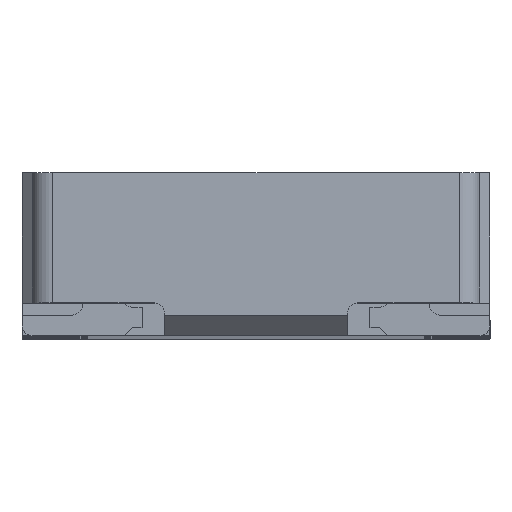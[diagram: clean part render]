
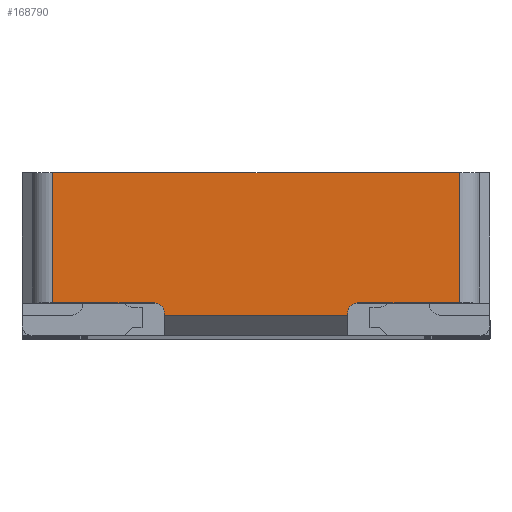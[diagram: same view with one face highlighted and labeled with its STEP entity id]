
A CAD part, top view. The second image highlights one B-rep face of the part: STEP entity #168790.
In plain terms, the highlighted planar face has unit normal (0, 0, 1).
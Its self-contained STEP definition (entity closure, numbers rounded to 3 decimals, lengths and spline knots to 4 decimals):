
#155020=CARTESIAN_POINT('',(21.6638,-1.2553,
4.85));
#155030=VERTEX_POINT('',#155020);
#155060=CARTESIAN_POINT('',(21.6638,-0.9016,
4.85));
#155070=DIRECTION('',(0.,1.,0.));
#155080=VECTOR('',#155070,1.);
#155090=LINE('',#155060,#155080);
#155100=CARTESIAN_POINT('',(21.6638,-1.2453,
4.85));
#155110=VERTEX_POINT('',#155100);
#155120=EDGE_CURVE('',#155030,#155110,#155090,.T.);
#155650=CARTESIAN_POINT('',(22.2138,-1.1953,
4.85));
#155660=VERTEX_POINT('',#155650);
#156350=CARTESIAN_POINT('',(21.7138,-1.1953,
4.85));
#156360=VERTEX_POINT('',#156350);
#156390=CARTESIAN_POINT('',(21.1271,-1.1953,
4.85));
#156400=DIRECTION('',(1.,0.,0.));
#156410=VECTOR('',#156400,1.);
#156420=LINE('',#156390,#156410);
#156430=EDGE_CURVE('',#156360,#155660,#156420,.T.);
#158290=CARTESIAN_POINT('',(21.7138,-1.2453,
4.85));
#158300=DIRECTION('',(0.,0.,1.));
#158310=DIRECTION('',(0.,-1.,0.));
#158320=AXIS2_PLACEMENT_3D('',#158290,#158300,#158310);
#158330=CIRCLE('',#158320,0.05);
#158340=EDGE_CURVE('',#156360,#155110,#158330,.T.);
#167180=CARTESIAN_POINT('',(20.2138,-0.5553,
4.85));
#167190=VERTEX_POINT('',#167180);
#168100=CARTESIAN_POINT('',(22.2138,-0.5553,
4.85));
#168110=VERTEX_POINT('',#168100);
#168140=CARTESIAN_POINT('',(21.1271,-0.5553,
4.85));
#168150=DIRECTION('',(-1.,0.,0.));
#168160=VECTOR('',#168150,1.);
#168170=LINE('',#168140,#168160);
#168180=EDGE_CURVE('',#168110,#167190,#168170,.T.);
#168230=CARTESIAN_POINT('',(21.8138,-0.8753,
4.85));
#168240=DIRECTION('',(0.,0.,1.));
#168250=DIRECTION('',(0.,-1.,0.));
#168260=AXIS2_PLACEMENT_3D('',#168230,#168240,#168250);
#168270=PLANE('',#168260);
#168280=CARTESIAN_POINT('',(22.2138,-0.9016,
4.85));
#168290=DIRECTION('',(0.,1.,0.));
#168300=VECTOR('',#168290,1.);
#168310=LINE('',#168280,#168300);
#168320=EDGE_CURVE('',#155660,#168110,#168310,.T.);
#168330=ORIENTED_EDGE('',*,*,#168320,.T.);
#168340=ORIENTED_EDGE('',*,*,#156430,.T.);
#168350=ORIENTED_EDGE('',*,*,#158340,.F.);
#168360=ORIENTED_EDGE('',*,*,#155120,.T.);
#168370=CARTESIAN_POINT('',(21.3004,-1.2553,
4.85));
#168380=DIRECTION('',(-1.,0.,0.));
#168390=VECTOR('',#168380,1.);
#168400=LINE('',#168370,#168390);
#168410=CARTESIAN_POINT('',(20.7638,-1.2553,
4.85));
#168420=VERTEX_POINT('',#168410);
#168430=EDGE_CURVE('',#155030,#168420,#168400,.T.);
#168440=ORIENTED_EDGE('',*,*,#168430,.F.);
#168450=CARTESIAN_POINT('',(20.7638,-0.9016,
4.85));
#168460=DIRECTION('',(0.,1.,0.));
#168470=VECTOR('',#168460,1.);
#168480=LINE('',#168450,#168470);
#168490=CARTESIAN_POINT('',(20.7638,-1.2453,
4.85));
#168500=VERTEX_POINT('',#168490);
#168510=EDGE_CURVE('',#168420,#168500,#168480,.T.);
#168520=ORIENTED_EDGE('',*,*,#168510,.F.);
#168530=CARTESIAN_POINT('',(20.7138,-1.2453,
4.85));
#168540=DIRECTION('',(0.,0.,-1.));
#168550=DIRECTION('',(0.,1.,0.));
#168560=AXIS2_PLACEMENT_3D('',#168530,#168540,#168550);
#168570=CIRCLE('',#168560,0.05);
#168580=CARTESIAN_POINT('',(20.7138,-1.1953,
4.85));
#168590=VERTEX_POINT('',#168580);
#168600=EDGE_CURVE('',#168590,#168500,#168570,.T.);
#168610=ORIENTED_EDGE('',*,*,#168600,.T.);
#168620=CARTESIAN_POINT('',(21.3004,-1.1953,
4.85));
#168630=DIRECTION('',(-1.,0.,0.));
#168640=VECTOR('',#168630,1.);
#168650=LINE('',#168620,#168640);
#168660=CARTESIAN_POINT('',(20.2138,-1.1953,
4.85));
#168670=VERTEX_POINT('',#168660);
#168680=EDGE_CURVE('',#168590,#168670,#168650,.T.);
#168690=ORIENTED_EDGE('',*,*,#168680,.F.);
#168700=CARTESIAN_POINT('',(20.2138,-0.9016,
4.85));
#168710=DIRECTION('',(0.,1.,0.));
#168720=VECTOR('',#168710,1.);
#168730=LINE('',#168700,#168720);
#168740=EDGE_CURVE('',#168670,#167190,#168730,.T.);
#168750=ORIENTED_EDGE('',*,*,#168740,.F.);
#168760=ORIENTED_EDGE('',*,*,#168180,.T.);
#168770=EDGE_LOOP('',(#168760,#168750,#168690,#168610,#168520,#168440,
#168360,#168350,#168340,#168330));
#168780=FACE_OUTER_BOUND('',#168770,.T.);
#168790=ADVANCED_FACE('',(#168780),#168270,.T.);
